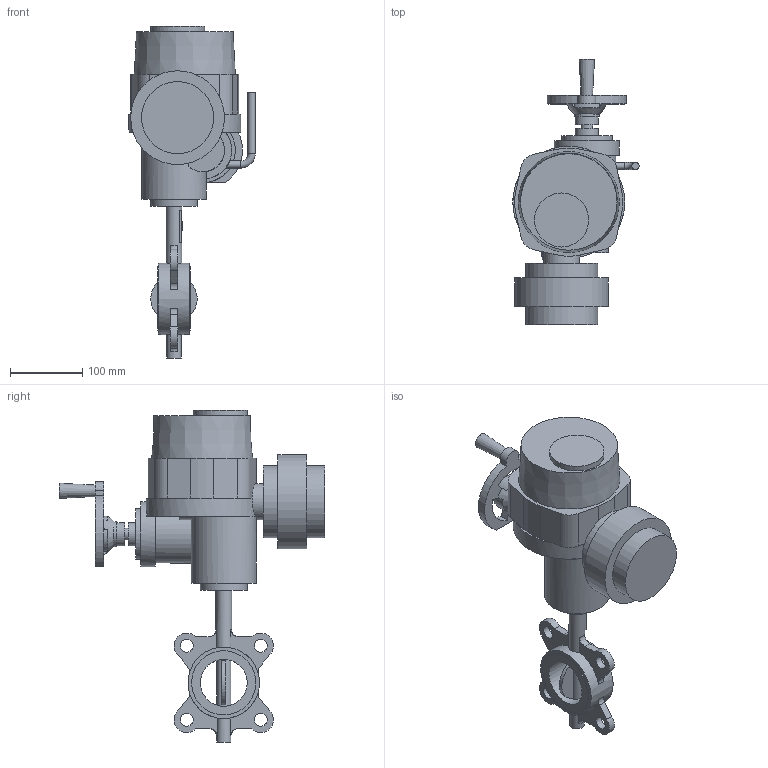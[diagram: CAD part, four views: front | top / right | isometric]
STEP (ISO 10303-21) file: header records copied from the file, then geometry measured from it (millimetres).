
FILE_DESCRIPTION(('STEP AP203'), '1');
FILE_NAME('青蜮铕 017W.Y_DN65_QT.A 005', '', ('UNSPECIFIED'), ('UNSPECIFIED'), 'ASCON STEP Converter 1.6', 'ASCON Math Kernel', '');
FILE_SCHEMA(('CONFIG_CONTROL_DESIGN'));
Length unit declared in the file: millimetre
Bounding box: 175 x 368 x 460 mm (x, y, z)
Volume: 4926796.6 mm3; surface area: 309515.6 mm2
Topology: 1 solids, 1 shells, 196 faces, 470 edges, 306 vertices
Faces by surface type: plane 111, cylinder 77, torus 5, cone 3
Full cylindrical faces by diameter (mm): 6.7 x8, 8 x4, 10 x2, 16 x1, 18 x4, 20 x2, 22 x1, 32 x2, 35 x1, 50 x1, 65 x2, 70 x1, 75 x1, 89 x2, 90 x2, 99 x1, 100 x2, 130 x1
Entity records: 8742 total; most frequent: CARTESIAN_POINT 2562, DIRECTION 999, ORIENTED_EDGE 856, EDGE_CURVE 428, AXIS2_PLACEMENT_3D 406, VERTEX_POINT 306, EDGE_LOOP 286, FACE_BOUND 213
